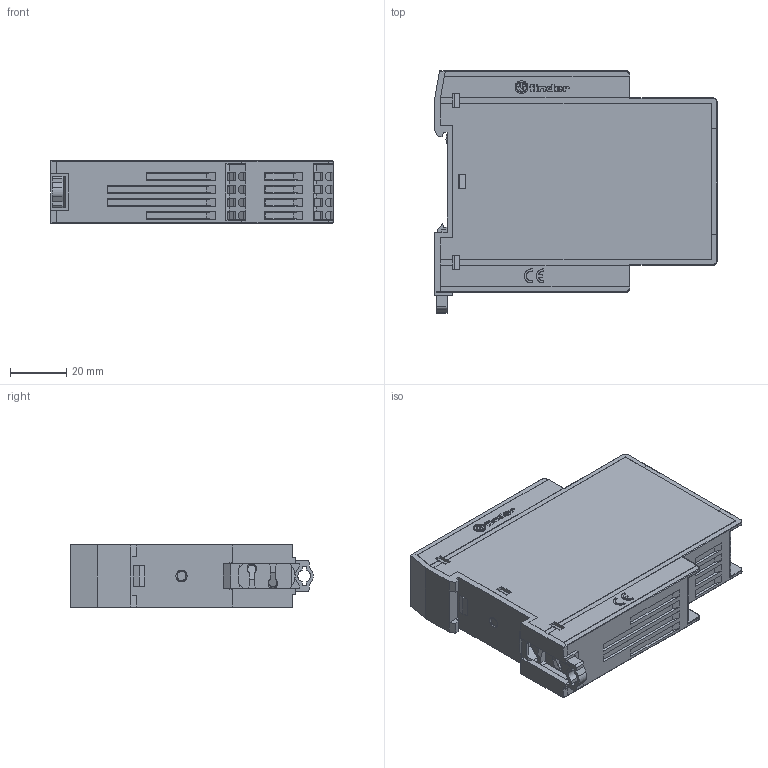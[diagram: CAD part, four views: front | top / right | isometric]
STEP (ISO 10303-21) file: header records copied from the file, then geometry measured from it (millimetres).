
FILE_DESCRIPTION(('STEP AP214'),'2;1');
FILE_NAME('7S_2_catalogo_OK.stp','2011-10-28T08:07:50',(''),(''),'2007.1.106','THINKDESIGN','');
FILE_SCHEMA(('AUTOMOTIVE_DESIGN'));
Products named in the file (1): None
Bounding box: 100.3 x 86.25 x 22.5 mm (x, y, z)
Surface area: 44497.2 mm2 (no closed solid volume)
Topology: 0 solids, 0 shells, 1144 faces, 7047 edges, 7047 vertices
Faces by surface type: plane 747, cylinder 230, bspline 167
Full cylindrical faces by diameter (mm): 3 x2
Entity records: 71720 total; most frequent: CARTESIAN_POINT 23211, DIRECTION 8237, COMPOSITE_CURVE_SEGMENT 7047, TRIMMED_CURVE 5868, VECTOR 5453, LINE 5453, AXIS2_PLACEMENT_3D 1392, OUTER_BOUNDARY_CURVE 1144
